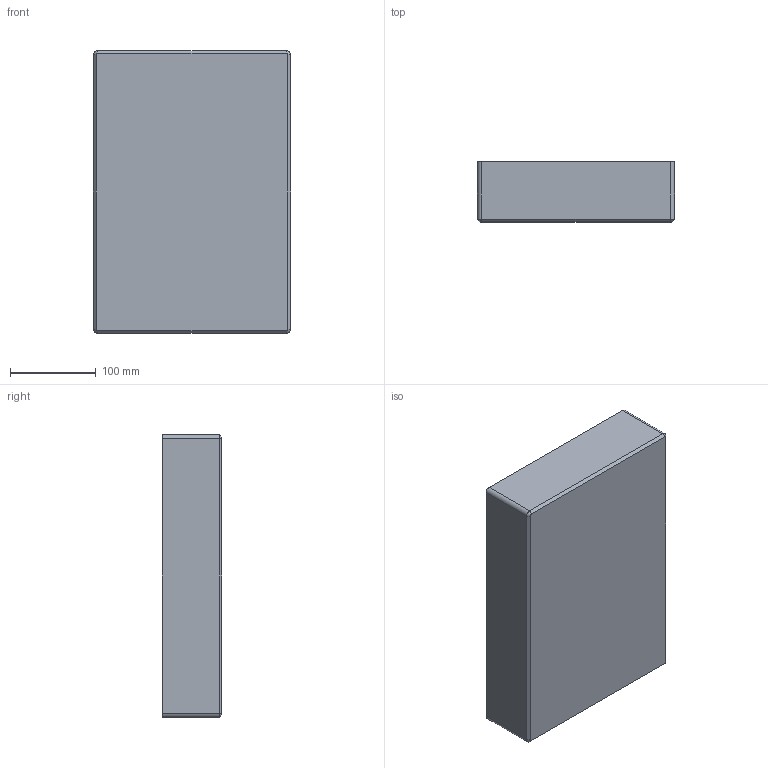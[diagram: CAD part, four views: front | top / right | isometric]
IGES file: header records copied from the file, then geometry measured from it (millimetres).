
Global section: file name: boite etanche; native system: unknown; preprocessor: unknown; author: unknown; organization: unknown; date: 20160718.104018; units: millimetre
Bounding box: 230 x 70 x 330 mm (x, y, z)
Volume: 2198297.1 mm3; surface area: 297456.5 mm2
Topology: 1 solids, 1 shells, 65 faces, 142 edges, 88 vertices
Faces by surface type: bspline 65
